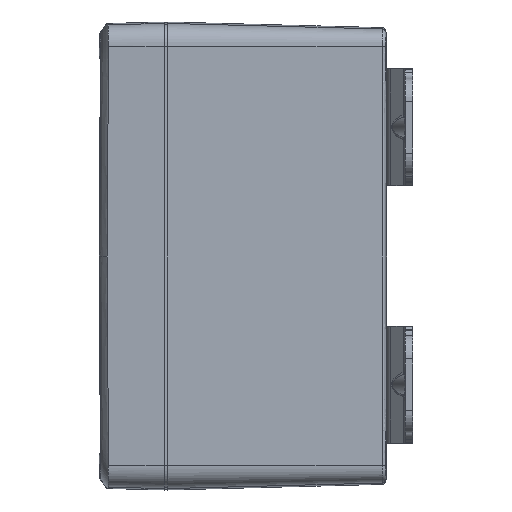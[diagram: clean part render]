
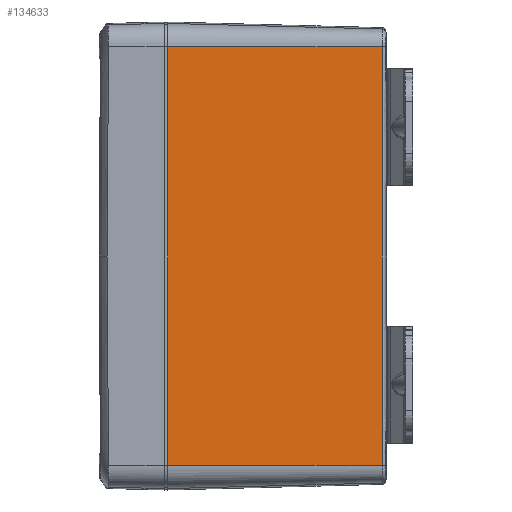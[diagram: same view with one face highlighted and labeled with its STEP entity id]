
A CAD part, left-side view. The second image highlights one B-rep face of the part: STEP entity #134633.
In plain terms, the highlighted planar face has unit normal (-1, -0.026, 0).
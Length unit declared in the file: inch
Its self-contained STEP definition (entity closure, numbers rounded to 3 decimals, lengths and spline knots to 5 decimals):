
#5353 = CARTESIAN_POINT ( 'NONE',  ( -3.375, 2.34, 2.23495 ) ) ;
#7025 = VERTEX_POINT ( 'NONE', #139367 ) ;
#19665 = CARTESIAN_POINT ( 'NONE',  ( -3.31495, 0.04671, -2.23495 ) ) ;
#27951 = EDGE_CURVE ( 'NONE', #77193, #65471, #100421, .T. ) ;
#29825 = ORIENTED_EDGE ( 'NONE', *, *, #98031, .T. ) ;
#32558 = ORIENTED_EDGE ( 'NONE', *, *, #104043, .T. ) ;
#35661 = ORIENTED_EDGE ( 'NONE', *, *, #27951, .F. ) ;
#50298 = VERTEX_POINT ( 'NONE', #19665 ) ;
#50506 = DIRECTION ( 'NONE',  ( -1., -0.026, 0. ) ) ;
#51867 = EDGE_CURVE ( 'NONE', #7025, #77193, #138358, .T. ) ;
#57113 = B_SPLINE_CURVE_WITH_KNOTS ( 'NONE', 3,
 ( #121335, #84397, #61534, #109520 ),
 .UNSPECIFIED., .F., .F.,
 ( 4, 4 ),
 ( 0., 1. ),
 .UNSPECIFIED. ) ;
#61534 = CARTESIAN_POINT ( 'NONE',  ( -3.31495, 0.04673, 0.74498 ) ) ;
#64600 = FACE_OUTER_BOUND ( 'NONE', #102435, .T. ) ;
#65471 = VERTEX_POINT ( 'NONE', #127204 ) ;
#75630 = CARTESIAN_POINT ( 'NONE',  ( -3.375, 2.34, -2.23495 ) ) ;
#77193 = VERTEX_POINT ( 'NONE', #152737 ) ;
#78930 = VECTOR ( 'NONE', #141856, 39.37008 ) ;
#84397 = CARTESIAN_POINT ( 'NONE',  ( -3.31495, 0.04673, -0.74498 ) ) ;
#88964 = PLANE ( 'NONE',  #114978 ) ;
#93870 = CARTESIAN_POINT ( 'NONE',  ( -3.375, 2.34, -2.23495 ) ) ;
#98031 = EDGE_CURVE ( 'NONE', #7025, #50298, #119845, .T. ) ;
#98439 = DIRECTION ( 'NONE',  ( 0.026, -1., 0. ) ) ;
#100421 = LINE ( 'NONE', #5353, #150393 ) ;
#101402 = CARTESIAN_POINT ( 'NONE',  ( -3.375, 2.34, -2.23495 ) ) ;
#102435 = EDGE_LOOP ( 'NONE', ( #29825, #32558, #35661, #111008 ) ) ;
#104043 = EDGE_CURVE ( 'NONE', #50298, #65471, #57113, .T. ) ;
#109520 = CARTESIAN_POINT ( 'NONE',  ( -3.31495, 0.04673, 2.23495 ) ) ;
#111008 = ORIENTED_EDGE ( 'NONE', *, *, #51867, .F. ) ;
#114978 = AXIS2_PLACEMENT_3D ( 'NONE', #75630, #50506, #98439 ) ;
#116871 = VECTOR ( 'NONE', #149372, 39.37008 ) ;
#119845 = LINE ( 'NONE', #93870, #78930 ) ;
#121335 = CARTESIAN_POINT ( 'NONE',  ( -3.31495, 0.04671, -2.23495 ) ) ;
#127204 = CARTESIAN_POINT ( 'NONE',  ( -3.31495, 0.04673, 2.23495 ) ) ;
#134633 = ADVANCED_FACE ( 'Face2', ( #64600 ), #88964, .T. ) ;
#136593 = DIRECTION ( 'NONE',  ( 0.026, -1., 0. ) ) ;
#138358 = LINE ( 'NONE', #101402, #116871 ) ;
#139367 = CARTESIAN_POINT ( 'NONE',  ( -3.375, 2.34, -2.23495 ) ) ;
#141856 = DIRECTION ( 'NONE',  ( 0.026, -1., 0. ) ) ;
#149372 = DIRECTION ( 'NONE',  ( 0., 0., 1. ) ) ;
#150393 = VECTOR ( 'NONE', #136593, 39.37008 ) ;
#152737 = CARTESIAN_POINT ( 'NONE',  ( -3.375, 2.34, 2.23495 ) ) ;
